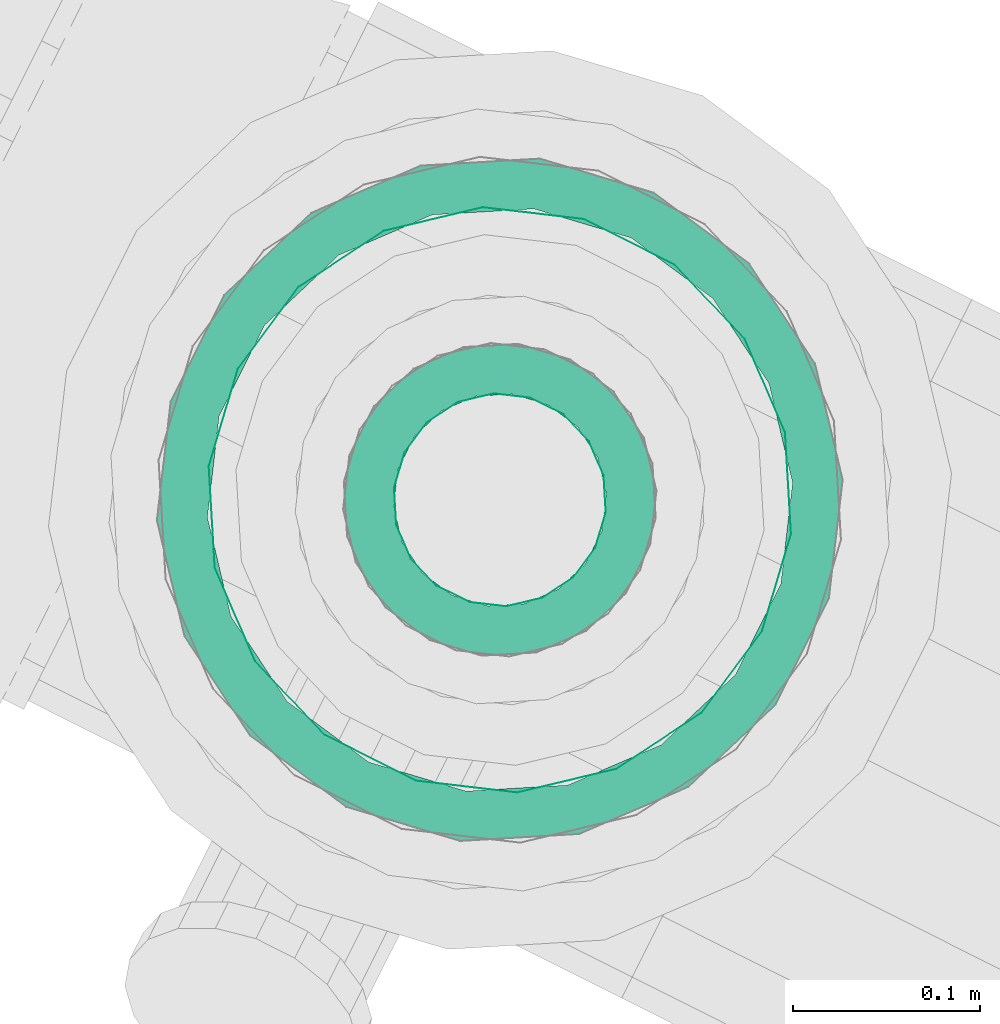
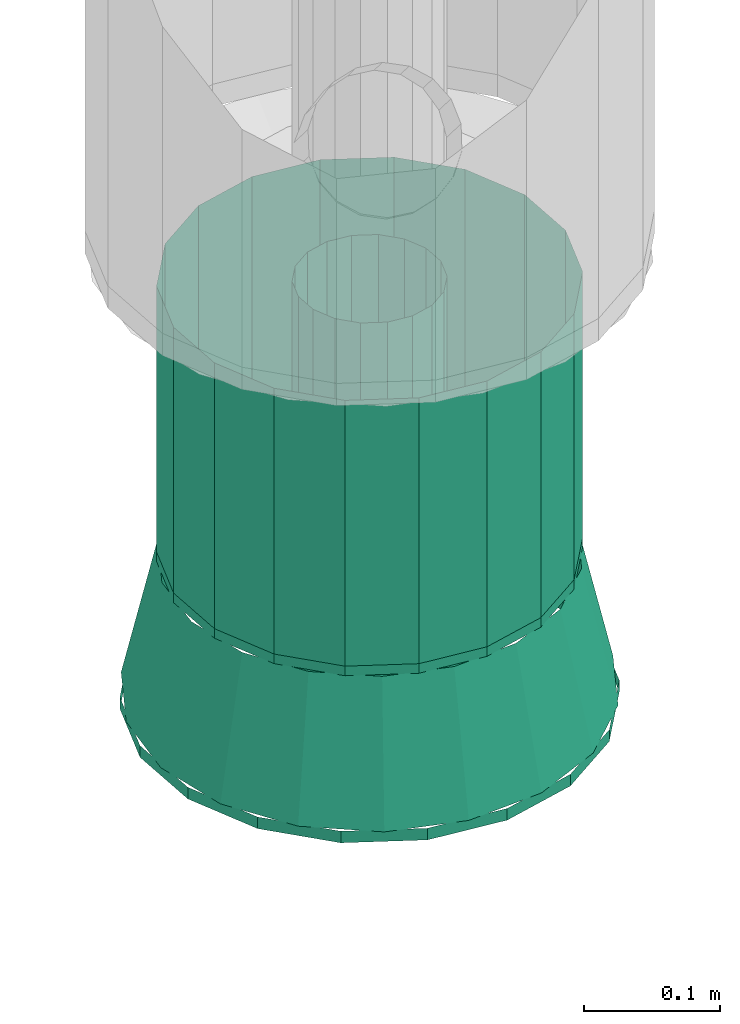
# One storey, part 71 of 152: 1 flow fitting, 1 flow segment.
"""IFC2X3 building model written with IfcOpenShell, lengths in metres."""

from ifc_helpers import new_model, si_unit, derived_unit, direction, frame, origin, place, context, subcontext, project, spatial, face_set, surface_model, source, transform, mapped, material, type_object, type_shapes, element, save


model = new_model("IFC2X3")

# Units and contexts
model_context = context("Model", 3, precision=5.2338327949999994e-05, world=origin(), true_north=direction((0.0, 1.0)))
body_context = subcontext(model_context, "Body", "Model", "MODEL_VIEW")
ifc_project = project(units=[si_unit("LENGTHUNIT", "METRE"), si_unit("AREAUNIT", "SQUARE_METRE"), si_unit("VOLUMEUNIT", "CUBIC_METRE"), si_unit("MASSUNIT", "GRAM", prefix="KILO"), si_unit("PLANEANGLEUNIT", "RADIAN"), derived_unit("THERMALTRANSMITTANCEUNIT", [(si_unit("MASSUNIT", "GRAM", prefix="KILO"), 1), (si_unit("THERMODYNAMICTEMPERATUREUNIT", "KELVIN"), -1), (si_unit("TIMEUNIT", "SECOND"), -3)])], contexts=[model_context])

# Site, building, storey
site_placement = place(None, frame((0.0, 0.0, 0.0), z_axis=(0.0, 0.0, 1.0), x_axis=(0.8939966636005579, -0.4480736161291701, 0.0)))
site = spatial("IfcSite", under=ifc_project, at=site_placement, Name="Default", CompositionType="ELEMENT")
building_placement = place(site_placement, origin())
building = spatial("IfcBuilding", under=site, at=building_placement, CompositionType="ELEMENT")
storey_placement = place(building_placement, frame((0.0, 0.0, 2.7499999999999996)))
storey = spatial("IfcBuildingStorey", under=building, at=storey_placement, Name="1. Obergeschoss", CompositionType="ELEMENT", Elevation=2.7499999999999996)

# Flow fitting
ifc_material = material(Name="IfcSurfaceStyle #1741")
distribution_element_type_1 = type_object("IfcDistributionElementType", Name="Übergangsstück 319403:Übergangsstück 319403", material=ifc_material)
shared_shape_1 = source(origin(), body_context, "Body", "SurfaceModel", [
    surface_model("IfcFaceBasedSurfaceModel", [(23.16900389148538, 8.459715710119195, 3.0829999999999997), (23.16392902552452, 8.488496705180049, 3.0829999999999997), (23.16392902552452, 8.488496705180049, 3.093459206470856), (23.16900389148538, 8.459715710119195, 3.093459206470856), (23.149316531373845, 8.513806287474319, 3.0829999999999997), (23.149316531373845, 8.513806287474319, 3.093459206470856), (23.126928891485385, 8.532591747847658, 3.0829999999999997), (23.126928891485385, 8.532591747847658, 3.093459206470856), (23.099466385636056, 8.542587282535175, 3.0829999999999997), (23.099466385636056, 8.542587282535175, 3.093459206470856), (23.070241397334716, 8.542587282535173, 3.0829999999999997), (23.070241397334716, 8.542587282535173, 3.093459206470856), (23.042778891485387, 8.532591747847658, 3.0829999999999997), (23.042778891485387, 8.532591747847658, 3.093459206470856), (23.020391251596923, 8.513806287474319, 3.0829999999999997), (23.020391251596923, 8.513806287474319, 3.093459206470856), (23.005778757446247, 8.488496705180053, 3.0829999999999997), (23.005778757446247, 8.488496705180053, 3.093459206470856), (23.000703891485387, 8.459715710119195, 3.0829999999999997), (23.000703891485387, 8.459715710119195, 3.093459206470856), (23.005778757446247, 8.43093471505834, 3.0829999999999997), (23.005778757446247, 8.43093471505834, 3.093459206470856), (23.020391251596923, 8.405625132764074, 3.0829999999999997), (23.020391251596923, 8.405625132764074, 3.093459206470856), (23.042778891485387, 8.386839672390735, 3.0829999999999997), (23.042778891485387, 8.386839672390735, 3.093459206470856), (23.070241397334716, 8.376844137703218, 3.0829999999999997), (23.070241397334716, 8.376844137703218, 3.093459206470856), (23.099466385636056, 8.376844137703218, 3.0829999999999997), (23.099466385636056, 8.376844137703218, 3.093459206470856), (23.12692889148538, 8.386839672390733, 3.0829999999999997), (23.12692889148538, 8.386839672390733, 3.093459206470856), (23.149316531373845, 8.405625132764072, 3.0829999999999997), (23.149316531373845, 8.405625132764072, 3.093459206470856), (23.163929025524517, 8.430934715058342, 3.0829999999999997), (23.163929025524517, 8.430934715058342, 3.093459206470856), (23.269003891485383, 8.459715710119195, 3.0829999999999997), (23.25789828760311, 8.522698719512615, 3.0829999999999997), (23.25789828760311, 8.522698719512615, 3.093459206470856), (23.269003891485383, 8.459715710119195, 3.093459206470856), (23.225920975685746, 8.578085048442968, 3.0829999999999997), (23.225920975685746, 8.578085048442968, 3.093459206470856), (23.17692889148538, 8.619194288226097, 3.0829999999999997), (23.17692889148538, 8.619194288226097, 3.093459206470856), (23.116831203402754, 8.641068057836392, 3.0829999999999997), (23.116831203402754, 8.641068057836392, 3.093459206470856), (23.052876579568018, 8.641068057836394, 3.0829999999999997), (23.052876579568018, 8.641068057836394, 3.093459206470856), (22.992778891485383, 8.619194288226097, 3.0829999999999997), (22.992778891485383, 8.619194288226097, 3.093459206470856), (22.943786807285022, 8.578085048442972, 3.0829999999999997), (22.943786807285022, 8.578085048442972, 3.093459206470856), (22.911809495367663, 8.522698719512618, 3.0829999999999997), (22.911809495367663, 8.522698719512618, 3.093459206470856), (22.90070389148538, 8.459715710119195, 3.0829999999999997), (22.90070389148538, 8.459715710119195, 3.093459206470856), (22.911809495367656, 8.396732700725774, 3.0829999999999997), (22.911809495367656, 8.396732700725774, 3.093459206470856), (22.943786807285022, 8.341346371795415, 3.0829999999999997), (22.943786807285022, 8.341346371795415, 3.093459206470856), (22.992778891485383, 8.300237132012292, 3.0829999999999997), (22.992778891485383, 8.300237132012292, 3.093459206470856), (23.052876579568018, 8.278363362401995, 3.0829999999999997), (23.052876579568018, 8.278363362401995, 3.093459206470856), (23.11683120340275, 8.278363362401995, 3.0829999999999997), (23.11683120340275, 8.278363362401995, 3.093459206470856), (23.17692889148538, 8.300237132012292, 3.0829999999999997), (23.17692889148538, 8.300237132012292, 3.093459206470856), (23.225920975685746, 8.341346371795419, 3.0829999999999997), (23.225920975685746, 8.341346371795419, 3.093459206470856), (23.257898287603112, 8.396732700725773, 3.0829999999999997), (23.257898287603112, 8.396732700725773, 3.093459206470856), (23.084853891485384, 8.543865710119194, 3.093459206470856), (23.05607289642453, 8.538790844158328, 3.093459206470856), (23.065307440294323, 8.513419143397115, 3.2143805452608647), (23.084853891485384, 8.516865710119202, 3.2143805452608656), (23.030763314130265, 8.524178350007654, 3.0934592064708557), (23.048118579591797, 8.503495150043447, 3.2143805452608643), (23.011977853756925, 8.501790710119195, 3.093459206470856), (23.035360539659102, 8.488290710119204, 3.2143805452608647), (23.00198231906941, 8.474328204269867, 3.0934592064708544), (23.028572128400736, 8.469639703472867, 3.2143805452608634), (23.00198231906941, 8.445103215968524, 3.0934592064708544), (23.02857212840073, 8.449791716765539, 3.2143805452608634), (23.011977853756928, 8.417640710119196, 3.0934592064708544), (23.0353605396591, 8.431140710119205, 3.2143805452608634), (23.030763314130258, 8.395253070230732, 3.093459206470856), (23.04811857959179, 8.415936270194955, 3.2143805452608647), (23.056072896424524, 8.380640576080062, 3.093459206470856), (23.06530744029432, 8.406012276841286, 3.2143805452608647), (23.084853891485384, 8.375565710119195, 3.093459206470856), (23.084853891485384, 8.402565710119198, 3.2143805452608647), (23.11363488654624, 8.380640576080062, 3.0934592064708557), (23.104400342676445, 8.406012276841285, 3.2143805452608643), (23.13894446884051, 8.395253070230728, 3.0934592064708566), (23.12158920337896, 8.415936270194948, 3.2143805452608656), (23.157729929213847, 8.417640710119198, 3.0934592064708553), (23.13434724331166, 8.431140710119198, 3.2143805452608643), (23.16772546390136, 8.445103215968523, 3.0934592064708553), (23.141135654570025, 8.44979171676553, 3.214380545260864), (23.16772546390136, 8.474328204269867, 3.0934592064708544), (23.14113565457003, 8.46963970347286, 3.2143805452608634), (23.15772992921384, 8.501790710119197, 3.0934592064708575), (23.134347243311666, 8.488290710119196, 3.2143805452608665), (23.138944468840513, 8.524178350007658, 3.0934592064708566), (23.121589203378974, 8.503495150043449, 3.2143805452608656), (23.11363488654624, 8.538790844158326, 3.093459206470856), (23.10440034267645, 8.513419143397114, 3.2143805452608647), (23.142003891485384, 8.459715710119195, 3.2143805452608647), (23.138557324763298, 8.47926216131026, 3.2143805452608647), (23.138557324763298, 8.47926216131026, 3.223), (23.142003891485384, 8.459715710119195, 3.223), (23.128633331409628, 8.49645102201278, 3.2143805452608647), (23.128633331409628, 8.49645102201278, 3.223), (23.113428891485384, 8.509209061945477, 3.2143805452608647), (23.113428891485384, 8.509209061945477, 3.223), (23.09477788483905, 8.515997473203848, 3.2143805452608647), (23.09477788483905, 8.515997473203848, 3.223), (23.074929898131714, 8.51599747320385, 3.2143805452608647), (23.074929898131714, 8.51599747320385, 3.223), (23.056278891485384, 8.509209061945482, 3.2143805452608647), (23.056278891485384, 8.509209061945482, 3.223), (23.04107445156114, 8.496451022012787, 3.2143805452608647), (23.04107445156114, 8.496451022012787, 3.223), (23.031150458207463, 8.479262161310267, 3.2143805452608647), (23.031150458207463, 8.479262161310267, 3.223), (23.027703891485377, 8.459715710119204, 3.2143805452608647), (23.02770389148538, 8.459715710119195, 3.223), (23.03115045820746, 8.44016925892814, 3.2143805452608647), (23.03115045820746, 8.44016925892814, 3.223), (23.041074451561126, 8.422980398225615, 3.2143805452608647), (23.041074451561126, 8.422980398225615, 3.223), (23.056278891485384, 8.410222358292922, 3.2143805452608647), (23.056278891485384, 8.410222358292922, 3.223), (23.07492989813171, 8.403433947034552, 3.2143805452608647), (23.07492989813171, 8.403433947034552, 3.223), (23.09477788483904, 8.403433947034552, 3.2143805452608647), (23.09477788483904, 8.403433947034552, 3.223), (23.11342889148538, 8.41022235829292, 3.2143805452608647), (23.11342889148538, 8.41022235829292, 3.223), (23.128633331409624, 8.422980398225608, 3.2143805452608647), (23.128633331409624, 8.422980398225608, 3.223), (23.13855732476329, 8.440169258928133, 3.2143805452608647), (23.13855732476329, 8.440169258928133, 3.223), (23.084853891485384, 8.643865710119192, 3.0934592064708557), (23.021870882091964, 8.632760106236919, 3.0934592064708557), (23.031105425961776, 8.60738840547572, 3.214380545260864), (23.084853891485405, 8.616865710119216, 3.2143805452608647), (22.966484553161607, 8.600782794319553, 3.0934592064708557), (22.983839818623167, 8.580099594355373, 3.214380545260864), (22.925375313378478, 8.551790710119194, 3.0934592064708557), (22.948757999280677, 8.538290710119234, 3.214380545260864), (22.90350154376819, 8.49169302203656, 3.0934592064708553), (22.93009135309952, 8.487004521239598, 3.2143805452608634), (22.90350154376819, 8.427738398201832, 3.0934592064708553), (22.930091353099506, 8.432426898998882, 3.2143805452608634), (22.92537531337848, 8.367640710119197, 3.093459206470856), (22.948757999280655, 8.381140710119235, 3.2143805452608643), (22.966484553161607, 8.318648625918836, 3.093459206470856), (22.983839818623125, 8.339331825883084, 3.2143805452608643), (23.021870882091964, 8.286671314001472, 3.0934592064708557), (23.03110542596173, 8.312043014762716, 3.214380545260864), (23.084853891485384, 8.275565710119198, 3.0934592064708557), (23.084853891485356, 8.302565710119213, 3.214380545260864), (23.1478369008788, 8.286671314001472, 3.0934592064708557), (23.13860235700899, 8.3120430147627, 3.214380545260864), (23.20322322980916, 8.318648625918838, 3.0934592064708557), (23.185867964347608, 8.339331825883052, 3.214380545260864), (23.244332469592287, 8.367640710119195, 3.0934592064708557), (23.220949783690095, 8.381140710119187, 3.214380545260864), (23.26620623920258, 8.427738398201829, 3.093459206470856), (23.239616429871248, 8.432426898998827, 3.2143805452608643), (23.266206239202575, 8.49169302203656, 3.0934592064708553), (23.23961642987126, 8.487004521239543, 3.2143805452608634), (23.24433246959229, 8.551790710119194, 3.093459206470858), (23.22094978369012, 8.538290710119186, 3.214380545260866), (23.20322322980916, 8.600782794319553, 3.0934592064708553), (23.185867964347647, 8.580099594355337, 3.2143805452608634), (23.147836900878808, 8.632760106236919, 3.0934592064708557), (23.138602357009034, 8.607388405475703, 3.214380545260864), (23.24200389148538, 8.459715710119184, 3.2143805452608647), (23.232526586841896, 8.513464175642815, 3.2143805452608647), (23.232526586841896, 8.513464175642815, 3.223), (23.24200389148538, 8.459715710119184, 3.223), (23.205237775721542, 8.56072978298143, 3.2143805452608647), (23.205237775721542, 8.56072978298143, 3.223), (23.163428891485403, 8.595811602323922, 3.2143805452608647), (23.163428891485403, 8.595811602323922, 3.223), (23.112142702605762, 8.614478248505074, 3.2143805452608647), (23.112142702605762, 8.614478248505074, 3.223), (23.05756508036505, 8.614478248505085, 3.2143805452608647), (23.05756508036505, 8.614478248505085, 3.223), (23.0062788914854, 8.59581160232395, 3.2143805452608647), (23.0062788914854, 8.59581160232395, 3.223), (22.96447000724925, 8.56072978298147, 3.2143805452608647), (22.96447000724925, 8.56072978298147, 3.223), (22.937181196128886, 8.513464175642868, 3.2143805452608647), (22.937181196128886, 8.513464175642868, 3.223), (22.927703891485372, 8.459715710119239, 3.2143805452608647), (22.927703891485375, 8.459715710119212, 3.223), (22.937181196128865, 8.405967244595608, 3.2143805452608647), (22.937181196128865, 8.405967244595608, 3.223), (22.964470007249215, 8.358701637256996, 3.2143805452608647), (22.964470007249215, 8.358701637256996, 3.223), (23.00627889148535, 8.323619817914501, 3.2143805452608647), (23.00627889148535, 8.323619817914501, 3.223), (23.05756508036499, 8.304953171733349, 3.2143805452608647), (23.05756508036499, 8.304953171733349, 3.223), (23.112142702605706, 8.304953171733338, 3.2143805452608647), (23.112142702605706, 8.304953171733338, 3.223), (23.163428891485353, 8.323619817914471, 3.2143805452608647), (23.163428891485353, 8.323619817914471, 3.223), (23.205237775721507, 8.35870163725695, 3.2143805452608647), (23.205237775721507, 8.35870163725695, 3.223), (23.232526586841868, 8.405967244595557, 3.2143805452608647), (23.232526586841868, 8.405967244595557, 3.223)], [face_set([[[0, 1, 2, 3]], [[1, 4, 5, 2]], [[4, 6, 7, 5]], [[6, 8, 9, 7]], [[8, 10, 11, 9]], [[10, 12, 13, 11]], [[12, 14, 15, 13]], [[14, 16, 17, 15]], [[16, 18, 19, 17]], [[18, 20, 21, 19]], [[20, 22, 23, 21]], [[22, 24, 25, 23]], [[24, 26, 27, 25]], [[26, 28, 29, 27]], [[28, 30, 31, 29]], [[30, 32, 33, 31]], [[32, 34, 35, 33]], [[34, 0, 3, 35]], [[36, 37, 38, 39]], [[37, 40, 41, 38]], [[40, 42, 43, 41]], [[42, 44, 45, 43]], [[44, 46, 47, 45]], [[46, 48, 49, 47]], [[48, 50, 51, 49]], [[50, 52, 53, 51]], [[52, 54, 55, 53]], [[54, 56, 57, 55]], [[56, 58, 59, 57]], [[58, 60, 61, 59]], [[60, 62, 63, 61]], [[62, 64, 65, 63]], [[64, 66, 67, 65]], [[66, 68, 69, 67]], [[68, 70, 71, 69]], [[70, 36, 39, 71]], [[72, 73, 74, 75]], [[73, 76, 77, 74]], [[76, 78, 79, 77]], [[78, 80, 81, 79]], [[80, 82, 83, 81]], [[82, 84, 85, 83]], [[84, 86, 87, 85]], [[86, 88, 89, 87]], [[88, 90, 91, 89]], [[90, 92, 93, 91]], [[92, 94, 95, 93]], [[94, 96, 97, 95]], [[96, 98, 99, 97]], [[98, 100, 101, 99]], [[100, 102, 103, 101]], [[102, 104, 105, 103]], [[104, 106, 107, 105]], [[106, 72, 75, 107]], [[108, 109, 110, 111]], [[109, 112, 113, 110]], [[112, 114, 115, 113]], [[114, 116, 117, 115]], [[116, 118, 119, 117]], [[118, 120, 121, 119]], [[120, 122, 123, 121]], [[122, 124, 125, 123]], [[124, 126, 127, 125]], [[126, 128, 129, 127]], [[128, 130, 131, 129]], [[130, 132, 133, 131]], [[132, 134, 135, 133]], [[134, 136, 137, 135]], [[136, 138, 139, 137]], [[138, 140, 141, 139]], [[140, 142, 143, 141]], [[142, 108, 111, 143]], [[144, 145, 146, 147]], [[145, 148, 149, 146]], [[148, 150, 151, 149]], [[150, 152, 153, 151]], [[152, 154, 155, 153]], [[154, 156, 157, 155]], [[156, 158, 159, 157]], [[158, 160, 161, 159]], [[160, 162, 163, 161]], [[162, 164, 165, 163]], [[164, 166, 167, 165]], [[166, 168, 169, 167]], [[168, 170, 171, 169]], [[170, 172, 173, 171]], [[172, 174, 175, 173]], [[174, 176, 177, 175]], [[176, 178, 179, 177]], [[178, 144, 147, 179]], [[180, 181, 182, 183]], [[181, 184, 185, 182]], [[184, 186, 187, 185]], [[186, 188, 189, 187]], [[188, 190, 191, 189]], [[190, 192, 193, 191]], [[192, 194, 195, 193]], [[194, 196, 197, 195]], [[196, 198, 199, 197]], [[198, 200, 201, 199]], [[200, 202, 203, 201]], [[202, 204, 205, 203]], [[204, 206, 207, 205]], [[206, 208, 209, 207]], [[208, 210, 211, 209]], [[210, 212, 213, 211]], [[212, 214, 215, 213]], [[214, 180, 183, 215]]])]),
])
type_shapes(distribution_element_type_1, [shared_shape_1])
flow_fitting_placement = place(storey_placement, frame((0.0, 0.0, -2.7499999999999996)))
element("IfcFlowFitting", 1, at=flow_fitting_placement, inside=storey, type_object=distribution_element_type_1, material=ifc_material, Name="Übergangsstück", ObjectType="Übergangsstück", context=body_context, shape_type="MappedRepresentation", body=[
    mapped(shared_shape_1, transform((0.0, 0.0, 0.0), scale=1.0)),
])

# Flow segment
distribution_element_type_2 = type_object("IfcDistributionElementType", Name="Stahlrohr nach DIN 2448 319712:Stahlrohr nach DIN 2448 319712", material=ifc_material)
shared_shape_2 = source(origin(), body_context, "Body", "SurfaceModel", [
    surface_model("IfcFaceBasedSurfaceModel", [(23.027703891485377, 8.459715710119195, 3.223), (23.031150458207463, 8.440169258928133, 3.223), (23.031150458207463, 8.440169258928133, 3.461870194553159), (23.027703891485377, 8.459715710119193, 3.461870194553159), (23.041074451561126, 8.42298039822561, 3.223), (23.041074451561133, 8.42298039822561, 3.461870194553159), (23.056278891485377, 8.410222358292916, 3.223), (23.056278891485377, 8.410222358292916, 3.461870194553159), (23.07492989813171, 8.403433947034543, 3.223), (23.074929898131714, 8.403433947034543, 3.461870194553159), (23.09477788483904, 8.403433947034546, 3.223), (23.094777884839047, 8.403433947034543, 3.461870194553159), (23.113428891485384, 8.410222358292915, 3.223), (23.11342889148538, 8.410222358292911, 3.461870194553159), (23.128633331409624, 8.422980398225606, 3.223), (23.12863333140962, 8.422980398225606, 3.461870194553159), (23.13855732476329, 8.44016925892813, 3.223), (23.13855732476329, 8.44016925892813, 3.461870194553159), (23.142003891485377, 8.459715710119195, 3.223), (23.14200389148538, 8.459715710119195, 3.461870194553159), (23.13855732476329, 8.479262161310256, 3.223), (23.138557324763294, 8.479262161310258, 3.461870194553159), (23.128633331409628, 8.496451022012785, 3.223), (23.128633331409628, 8.496451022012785, 3.461870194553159), (23.113428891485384, 8.509209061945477, 3.223), (23.113428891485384, 8.509209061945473, 3.461870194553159), (23.094777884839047, 8.515997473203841, 3.223), (23.09477788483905, 8.515997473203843, 3.461870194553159), (23.074929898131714, 8.515997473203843, 3.223), (23.074929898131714, 8.515997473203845, 3.461870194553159), (23.056278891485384, 8.509209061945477, 3.223), (23.056278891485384, 8.509209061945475, 3.461870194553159), (23.04107445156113, 8.496451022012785, 3.223), (23.041074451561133, 8.496451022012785, 3.461870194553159), (23.031150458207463, 8.479262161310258, 3.223), (23.03115045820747, 8.479262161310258, 3.461870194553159), (22.927703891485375, 8.459715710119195, 3.223), (22.93718119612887, 8.405967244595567, 3.223), (22.93718119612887, 8.405967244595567, 3.461870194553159), (22.927703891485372, 8.459715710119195, 3.461870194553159), (22.96447000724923, 8.358701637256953, 3.223), (22.96447000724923, 8.358701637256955, 3.461870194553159), (23.00627889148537, 8.323619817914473, 3.223), (23.00627889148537, 8.323619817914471, 3.461870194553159), (23.05756508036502, 8.304953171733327, 3.223), (23.057565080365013, 8.304953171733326, 3.461870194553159), (23.112142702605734, 8.304953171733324, 3.223), (23.112142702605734, 8.304953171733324, 3.461870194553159), (23.163428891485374, 8.32361981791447, 3.223), (23.163428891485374, 8.32361981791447, 3.461870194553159), (23.20523777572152, 8.358701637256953, 3.223), (23.20523777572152, 8.358701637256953, 3.461870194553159), (23.232526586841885, 8.405967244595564, 3.223), (23.23252658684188, 8.405967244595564, 3.461870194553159), (23.24200389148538, 8.459715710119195, 3.223), (23.24200389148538, 8.459715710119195, 3.461870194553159), (23.23252658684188, 8.513464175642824, 3.223), (23.23252658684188, 8.513464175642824, 3.461870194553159), (23.205237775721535, 8.560729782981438, 3.223), (23.205237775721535, 8.560729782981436, 3.461870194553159), (23.163428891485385, 8.595811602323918, 3.223), (23.163428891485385, 8.595811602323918, 3.461870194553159), (23.112142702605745, 8.614478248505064, 3.223), (23.11214270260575, 8.614478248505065, 3.461870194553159), (23.057565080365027, 8.614478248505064, 3.223), (23.057565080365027, 8.614478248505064, 3.461870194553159), (23.006278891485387, 8.59581160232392, 3.223), (23.006278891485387, 8.59581160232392, 3.461870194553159), (22.96447000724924, 8.560729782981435, 3.223), (22.96447000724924, 8.560729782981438, 3.461870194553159), (22.93718119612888, 8.513464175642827, 3.223), (22.937181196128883, 8.513464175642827, 3.461870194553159)], [face_set([[[0, 1, 2, 3]], [[1, 4, 5, 2]], [[4, 6, 7, 5]], [[6, 8, 9, 7]], [[8, 10, 11, 9]], [[10, 12, 13, 11]], [[12, 14, 15, 13]], [[14, 16, 17, 15]], [[16, 18, 19, 17]], [[18, 20, 21, 19]], [[20, 22, 23, 21]], [[22, 24, 25, 23]], [[24, 26, 27, 25]], [[26, 28, 29, 27]], [[28, 30, 31, 29]], [[30, 32, 33, 31]], [[32, 34, 35, 33]], [[34, 0, 3, 35]], [[36, 37, 38, 39]], [[37, 40, 41, 38]], [[40, 42, 43, 41]], [[42, 44, 45, 43]], [[44, 46, 47, 45]], [[46, 48, 49, 47]], [[48, 50, 51, 49]], [[50, 52, 53, 51]], [[52, 54, 55, 53]], [[54, 56, 57, 55]], [[56, 58, 59, 57]], [[58, 60, 61, 59]], [[60, 62, 63, 61]], [[62, 64, 65, 63]], [[64, 66, 67, 65]], [[66, 68, 69, 67]], [[68, 70, 71, 69]], [[70, 36, 39, 71]]])]),
])
type_shapes(distribution_element_type_2, [shared_shape_2])
flow_segment_placement = place(storey_placement, frame((0.0, 0.0, -2.7499999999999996)))
element("IfcFlowSegment", 2, at=flow_segment_placement, inside=storey, type_object=distribution_element_type_2, material=ifc_material, Name="Stahlrohr nach DIN 2448", ObjectType="Stahlrohr nach DIN 2448", context=body_context, shape_type="MappedRepresentation", body=[
    mapped(shared_shape_2, transform((0.0, 0.0, 0.0), scale=1.0)),
])

save(model, "model.ifc")
